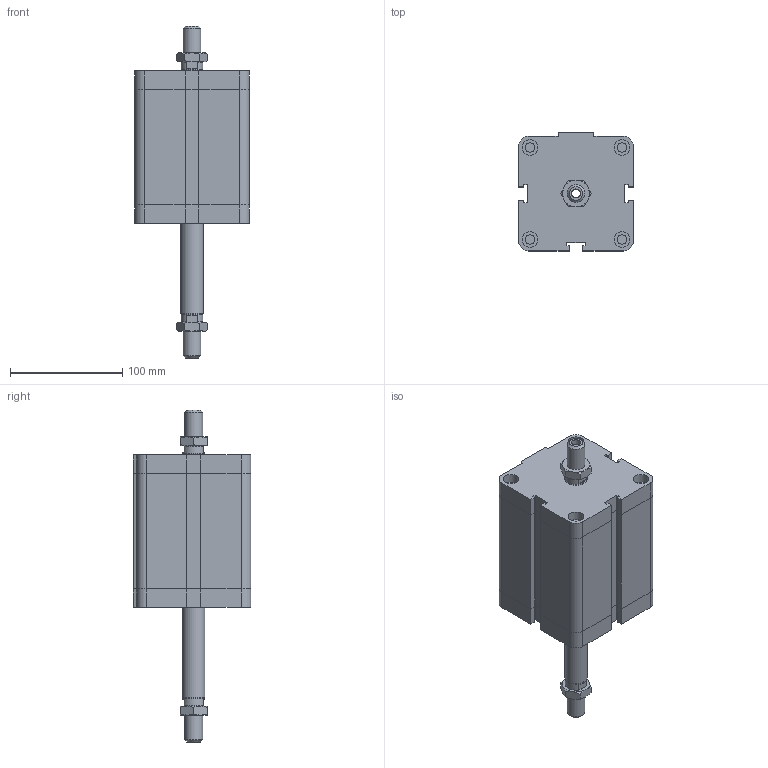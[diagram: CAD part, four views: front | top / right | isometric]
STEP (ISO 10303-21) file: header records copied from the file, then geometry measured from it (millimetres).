
FILE_DESCRIPTION((''),'2;1');
FILE_NAME('I:\Area Tecnica\Disegni\VARIE-3D\Componenti\EUROPE\15##_###_####_05_#\1581_80_0080_05_1.iam.stp','2009-04-20T15:03:19',(''),(''),'Autodesk Inventor 2009','Autodesk Inventor 2009','');
FILE_SCHEMA(('AUTOMOTIVE_DESIGN { 1 0 10303 214 1 1 1 1 }'));
Length unit declared in the file: millimetre
Products named in the file (4): 1581_80_0080_05_1; 1581_80_0080_03_1_C; 1561_80_0080_05_1_S; DBFM16
Assembly tree (4 placements, depth 2):
  1581_80_0080_05_1
    1581_80_0080_03_1_C
    1561_80_0080_05_1_S
    DBFM16  x2
Bounding box: 102 x 105 x 296 mm (x, y, z)
Volume: 1392114.6 mm3; surface area: 127286.7 mm2
Topology: 4 solids, 4 shells, 223 faces, 486 edges, 291 vertices
Faces by surface type: plane 129, cone 37, bspline 32, cylinder 25
Full cylindrical faces by diameter (mm): 8.376 x4, 14 x4, 14.5 x1, 16 x1, 19.5 x2, 20 x1
Entity records: 5484 total; most frequent: CARTESIAN_POINT 1227, DIRECTION 808, ORIENTED_EDGE 776, EDGE_CURVE 388, AXIS2_PLACEMENT_3D 275, EDGE_LOOP 262, VECTOR 258, LINE 258
